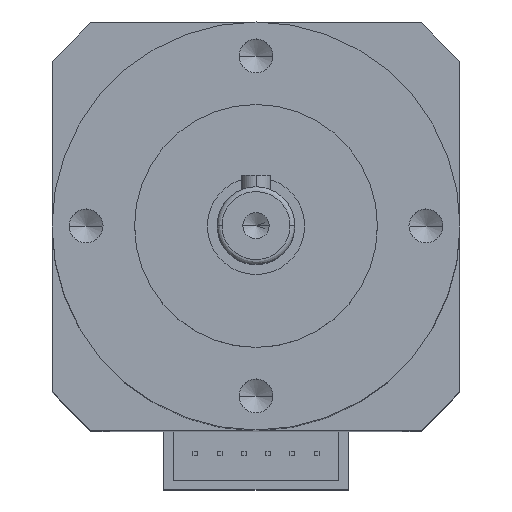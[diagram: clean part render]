
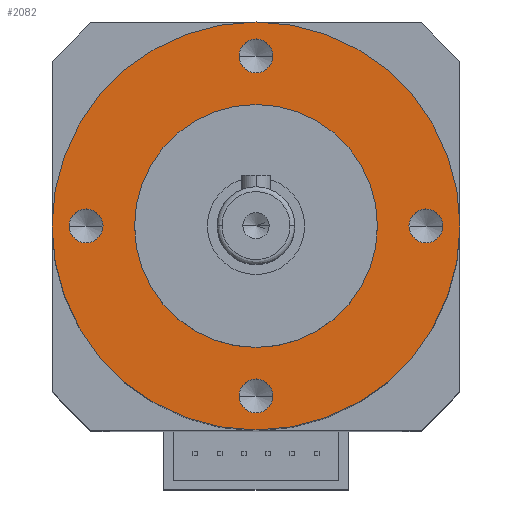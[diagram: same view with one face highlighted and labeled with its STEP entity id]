
A CAD part, top view. The second image highlights one B-rep face of the part: STEP entity #2082.
In plain terms, the highlighted planar face has unit normal (0, 0, 1).
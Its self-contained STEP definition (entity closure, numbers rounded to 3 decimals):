
#37 = AXIS2_PLACEMENT_3D ( 'NONE', #2111, #3188, #2653 ) ;
#82 = CARTESIAN_POINT ( 'NONE',  ( -21., 0., 0. ) ) ;
#96 = CIRCLE ( 'NONE', #3492, 12.5 ) ;
#108 = DIRECTION ( 'NONE',  ( -1., 0., 0. ) ) ;
#181 = CIRCLE ( 'NONE', #2755, 21. ) ;
#222 = CIRCLE ( 'NONE', #2076, 1.75 ) ;
#223 = DIRECTION ( 'NONE',  ( 0., 0., 1. ) ) ;
#250 = VERTEX_POINT ( 'NONE', #1132 ) ;
#281 = DIRECTION ( 'NONE',  ( 0., 0., -1. ) ) ;
#294 = AXIS2_PLACEMENT_3D ( 'NONE', #3329, #308, #824 ) ;
#296 = FACE_BOUND ( 'NONE', #2072, .T. ) ;
#297 = CIRCLE ( 'NONE', #37, 21. ) ;
#308 = DIRECTION ( 'NONE',  ( 0., 0., 1. ) ) ;
#330 = EDGE_CURVE ( 'NONE', #2859, #2318, #2594, .T. ) ;
#422 = CIRCLE ( 'NONE', #2026, 1.75 ) ;
#472 = ORIENTED_EDGE ( 'NONE', *, *, #3472, .F. ) ;
#478 = ORIENTED_EDGE ( 'NONE', *, *, #2052, .F. ) ;
#498 = VERTEX_POINT ( 'NONE', #2078 ) ;
#520 = CIRCLE ( 'NONE', #2198, 1.75 ) ;
#524 = ORIENTED_EDGE ( 'NONE', *, *, #2965, .F. ) ;
#539 = VERTEX_POINT ( 'NONE', #3460 ) ;
#555 = DIRECTION ( 'NONE',  ( -1., 0., 0. ) ) ;
#566 = CARTESIAN_POINT ( 'NONE',  ( -1.75, -17.5, 0. ) ) ;
#569 = EDGE_CURVE ( 'NONE', #498, #2938, #222, .T. ) ;
#585 = EDGE_LOOP ( 'NONE', ( #2376, #1408 ) ) ;
#632 = DIRECTION ( 'NONE',  ( -1., 0., 0. ) ) ;
#645 = CARTESIAN_POINT ( 'NONE',  ( -12.5, 0., 0. ) ) ;
#658 = VERTEX_POINT ( 'NONE', #82 ) ;
#717 = CARTESIAN_POINT ( 'NONE',  ( 1.75, -17.5, 0. ) ) ;
#728 = DIRECTION ( 'NONE',  ( -1., 0., 0. ) ) ;
#732 = ORIENTED_EDGE ( 'NONE', *, *, #2451, .F. ) ;
#735 = CARTESIAN_POINT ( 'NONE',  ( -1.75, 17.5, 0. ) ) ;
#744 = FACE_BOUND ( 'NONE', #2942, .T. ) ;
#824 = DIRECTION ( 'NONE',  ( -1., 0., 0. ) ) ;
#896 = CARTESIAN_POINT ( 'NONE',  ( 0., 0., 0. ) ) ;
#927 = CARTESIAN_POINT ( 'NONE',  ( 15.75, 0., 0. ) ) ;
#981 = EDGE_CURVE ( 'NONE', #658, #250, #181, .T. ) ;
#1075 = EDGE_CURVE ( 'NONE', #2283, #539, #96, .T. ) ;
#1083 = DIRECTION ( 'NONE',  ( 0., 0., 1. ) ) ;
#1132 = CARTESIAN_POINT ( 'NONE',  ( 21., 0., 0. ) ) ;
#1149 = ORIENTED_EDGE ( 'NONE', *, *, #1230, .F. ) ;
#1167 = CARTESIAN_POINT ( 'NONE',  ( 17.5, 0., 0. ) ) ;
#1171 = CIRCLE ( 'NONE', #294, 1.75 ) ;
#1195 = DIRECTION ( 'NONE',  ( -1., 0., 0. ) ) ;
#1230 = EDGE_CURVE ( 'NONE', #2601, #1743, #1243, .T. ) ;
#1243 = CIRCLE ( 'NONE', #2710, 1.75 ) ;
#1286 = AXIS2_PLACEMENT_3D ( 'NONE', #1167, #2836, #632 ) ;
#1318 = VERTEX_POINT ( 'NONE', #566 ) ;
#1408 = ORIENTED_EDGE ( 'NONE', *, *, #1468, .F. ) ;
#1468 = EDGE_CURVE ( 'NONE', #539, #2283, #1941, .T. ) ;
#1600 = CARTESIAN_POINT ( 'NONE',  ( -17.5, 0., 0. ) ) ;
#1607 = ORIENTED_EDGE ( 'NONE', *, *, #1716, .F. ) ;
#1693 = VERTEX_POINT ( 'NONE', #717 ) ;
#1716 = EDGE_CURVE ( 'NONE', #2318, #2859, #2764, .T. ) ;
#1743 = VERTEX_POINT ( 'NONE', #735 ) ;
#1766 = CARTESIAN_POINT ( 'NONE',  ( 0., 0., 0. ) ) ;
#1788 = AXIS2_PLACEMENT_3D ( 'NONE', #2365, #3164, #728 ) ;
#1915 = DIRECTION ( 'NONE',  ( -1., 0., 0. ) ) ;
#1922 = CARTESIAN_POINT ( 'NONE',  ( 1.75, 17.5, 0. ) ) ;
#1941 = CIRCLE ( 'NONE', #3081, 12.5 ) ;
#2025 = FACE_OUTER_BOUND ( 'NONE', #3087, .T. ) ;
#2026 = AXIS2_PLACEMENT_3D ( 'NONE', #1600, #2190, #2700 ) ;
#2052 = EDGE_CURVE ( 'NONE', #2938, #498, #422, .T. ) ;
#2056 = ORIENTED_EDGE ( 'NONE', *, *, #2749, .F. ) ;
#2067 = DIRECTION ( 'NONE',  ( -1., 0., 0. ) ) ;
#2072 = EDGE_LOOP ( 'NONE', ( #2056, #472 ) ) ;
#2076 = AXIS2_PLACEMENT_3D ( 'NONE', #2117, #2343, #2067 ) ;
#2078 = CARTESIAN_POINT ( 'NONE',  ( -15.75, 0., 0. ) ) ;
#2082 = ADVANCED_FACE ( 'NONE', ( #296, #3512, #744, #2462, #2760, #2025 ), #2201, .F. ) ;
#2111 = CARTESIAN_POINT ( 'NONE',  ( 0., 0., 0. ) ) ;
#2117 = CARTESIAN_POINT ( 'NONE',  ( -17.5, 0., 0. ) ) ;
#2122 = DIRECTION ( 'NONE',  ( -1., 0., 0. ) ) ;
#2185 = CARTESIAN_POINT ( 'NONE',  ( 0., 17.5, 0. ) ) ;
#2190 = DIRECTION ( 'NONE',  ( 0., 0., 1. ) ) ;
#2198 = AXIS2_PLACEMENT_3D ( 'NONE', #3114, #3144, #1195 ) ;
#2201 = PLANE ( 'NONE',  #2268 ) ;
#2268 = AXIS2_PLACEMENT_3D ( 'NONE', #3504, #281, #555 ) ;
#2283 = VERTEX_POINT ( 'NONE', #645 ) ;
#2318 = VERTEX_POINT ( 'NONE', #927 ) ;
#2334 = DIRECTION ( 'NONE',  ( 0., 0., 1. ) ) ;
#2343 = DIRECTION ( 'NONE',  ( 0., 0., 1. ) ) ;
#2365 = CARTESIAN_POINT ( 'NONE',  ( 17.5, 0., 0. ) ) ;
#2376 = ORIENTED_EDGE ( 'NONE', *, *, #1075, .F. ) ;
#2451 = EDGE_CURVE ( 'NONE', #250, #658, #297, .T. ) ;
#2462 = FACE_BOUND ( 'NONE', #3442, .T. ) ;
#2524 = ORIENTED_EDGE ( 'NONE', *, *, #569, .F. ) ;
#2548 = CIRCLE ( 'NONE', #3417, 1.75 ) ;
#2576 = DIRECTION ( 'NONE',  ( -1., 0., 0. ) ) ;
#2594 = CIRCLE ( 'NONE', #1286, 1.75 ) ;
#2601 = VERTEX_POINT ( 'NONE', #1922 ) ;
#2653 = DIRECTION ( 'NONE',  ( -1., 0., 0. ) ) ;
#2673 = CARTESIAN_POINT ( 'NONE',  ( -19.25, 0., 0. ) ) ;
#2700 = DIRECTION ( 'NONE',  ( -1., 0., 0. ) ) ;
#2710 = AXIS2_PLACEMENT_3D ( 'NONE', #2185, #1083, #3041 ) ;
#2749 = EDGE_CURVE ( 'NONE', #1318, #1693, #520, .T. ) ;
#2755 = AXIS2_PLACEMENT_3D ( 'NONE', #3034, #2761, #1915 ) ;
#2760 = FACE_BOUND ( 'NONE', #585, .T. ) ;
#2761 = DIRECTION ( 'NONE',  ( 0., 0., -1. ) ) ;
#2764 = CIRCLE ( 'NONE', #1788, 1.75 ) ;
#2836 = DIRECTION ( 'NONE',  ( 0., 0., 1. ) ) ;
#2859 = VERTEX_POINT ( 'NONE', #2904 ) ;
#2860 = ORIENTED_EDGE ( 'NONE', *, *, #981, .F. ) ;
#2904 = CARTESIAN_POINT ( 'NONE',  ( 19.25, 0., 0. ) ) ;
#2938 = VERTEX_POINT ( 'NONE', #2673 ) ;
#2942 = EDGE_LOOP ( 'NONE', ( #524, #1149 ) ) ;
#2965 = EDGE_CURVE ( 'NONE', #1743, #2601, #2548, .T. ) ;
#3034 = CARTESIAN_POINT ( 'NONE',  ( 0., 0., 0. ) ) ;
#3041 = DIRECTION ( 'NONE',  ( -1., 0., 0. ) ) ;
#3081 = AXIS2_PLACEMENT_3D ( 'NONE', #1766, #2334, #2576 ) ;
#3087 = EDGE_LOOP ( 'NONE', ( #732, #2860 ) ) ;
#3089 = DIRECTION ( 'NONE',  ( 0., 0., 1. ) ) ;
#3114 = CARTESIAN_POINT ( 'NONE',  ( 0., -17.5, 0. ) ) ;
#3144 = DIRECTION ( 'NONE',  ( 0., 0., 1. ) ) ;
#3164 = DIRECTION ( 'NONE',  ( 0., 0., 1. ) ) ;
#3188 = DIRECTION ( 'NONE',  ( 0., 0., -1. ) ) ;
#3301 = EDGE_LOOP ( 'NONE', ( #1607, #3473 ) ) ;
#3329 = CARTESIAN_POINT ( 'NONE',  ( 0., -17.5, 0. ) ) ;
#3417 = AXIS2_PLACEMENT_3D ( 'NONE', #3498, #223, #2122 ) ;
#3442 = EDGE_LOOP ( 'NONE', ( #478, #2524 ) ) ;
#3460 = CARTESIAN_POINT ( 'NONE',  ( 12.5, 0., 0. ) ) ;
#3472 = EDGE_CURVE ( 'NONE', #1693, #1318, #1171, .T. ) ;
#3473 = ORIENTED_EDGE ( 'NONE', *, *, #330, .F. ) ;
#3492 = AXIS2_PLACEMENT_3D ( 'NONE', #896, #3089, #108 ) ;
#3498 = CARTESIAN_POINT ( 'NONE',  ( 0., 17.5, 0. ) ) ;
#3504 = CARTESIAN_POINT ( 'NONE',  ( -21., -21., 0. ) ) ;
#3512 = FACE_BOUND ( 'NONE', #3301, .T. ) ;
